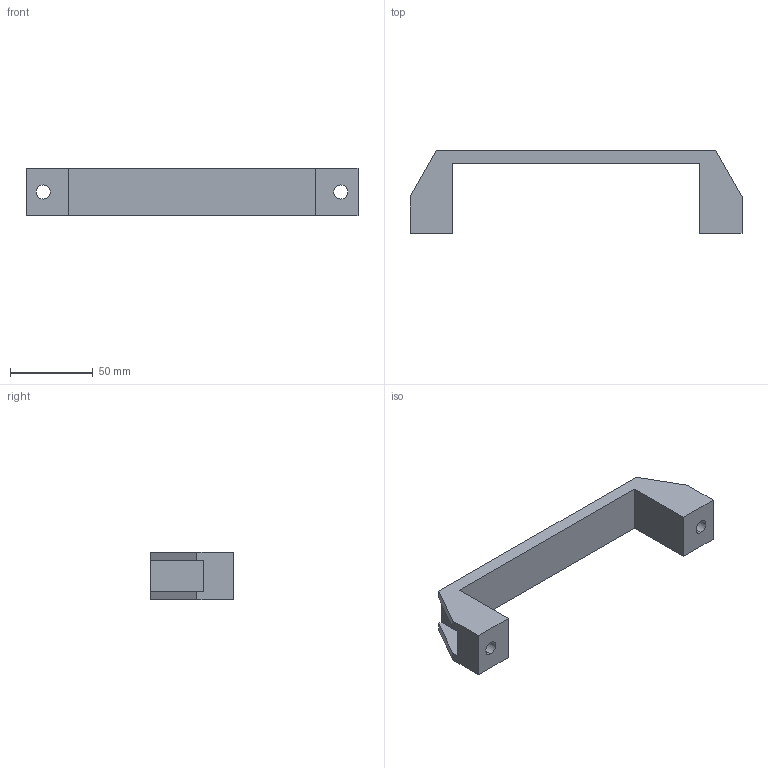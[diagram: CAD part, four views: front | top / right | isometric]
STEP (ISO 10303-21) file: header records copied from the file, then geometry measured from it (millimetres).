
FILE_DESCRIPTION (( 'STEP AP203' ), '1' );
FILE_NAME ('193-CE-HD-180.STEP', '2015-07-09T09:20:48', ( '' ), ( '' ), 'SwSTEP 2.0', 'SolidWorks 2013', '' );
FILE_SCHEMA (( 'CONFIG_CONTROL_DESIGN' ));
Length unit declared in the file: millimetre
Products named in the file (1): 193-CE-HD-180
Bounding box: 201 x 50 x 29 mm (x, y, z)
Volume: 80339.2 mm3; surface area: 25505.3 mm2
Topology: 1 solids, 1 shells, 26 faces, 72 edges, 48 vertices
Faces by surface type: plane 22, cylinder 4
Entity records: 909 total; most frequent: CARTESIAN_POINT 147, ORIENTED_EDGE 144, DIRECTION 134, EDGE_CURVE 72, VECTOR 64, LINE 64, VERTEX_POINT 48, AXIS2_PLACEMENT_3D 35
